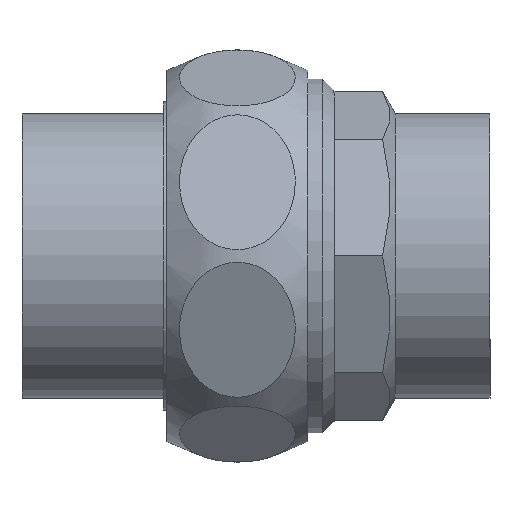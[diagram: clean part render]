
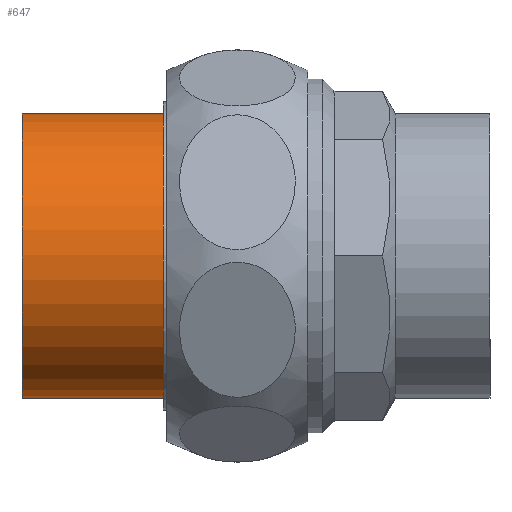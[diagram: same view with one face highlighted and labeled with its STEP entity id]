
A CAD part, front view. The second image highlights one B-rep face of the part: STEP entity #647.
In plain terms, the highlighted cylindrical face has radius 19.2 mm (diameter 38.4 mm), a full revolution.
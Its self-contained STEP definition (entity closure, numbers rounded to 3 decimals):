
#94=CYLINDRICAL_SURFACE('',#822,19.2);
#127=FACE_BOUND('',#289,.T.);
#160=CIRCLE('',#821,19.2);
#161=CIRCLE('',#823,19.2);
#212=FACE_OUTER_BOUND('',#288,.T.);
#288=EDGE_LOOP('',(#559));
#289=EDGE_LOOP('',(#560));
#365=VERTEX_POINT('',#1819);
#366=VERTEX_POINT('',#1822);
#433=EDGE_CURVE('',#365,#365,#160,.T.);
#434=EDGE_CURVE('',#366,#366,#161,.T.);
#559=ORIENTED_EDGE('',*,*,#434,.F.);
#560=ORIENTED_EDGE('',*,*,#433,.T.);
#647=ADVANCED_FACE('',(#212,#127),#94,.T.);
#821=AXIS2_PLACEMENT_3D('',#1820,#990,#991);
#822=AXIS2_PLACEMENT_3D('',#1821,#992,#993);
#823=AXIS2_PLACEMENT_3D('',#1823,#994,#995);
#990=DIRECTION('center_axis',(1.,0.,0.));
#991=DIRECTION('ref_axis',(0.,1.,0.));
#992=DIRECTION('center_axis',(1.,0.,0.));
#993=DIRECTION('ref_axis',(0.,1.,0.));
#994=DIRECTION('center_axis',(1.,0.,0.));
#995=DIRECTION('ref_axis',(0.,1.,0.));
#1819=CARTESIAN_POINT('',(8.,19.2,0.));
#1820=CARTESIAN_POINT('Origin',(8.,0.,0.));
#1821=CARTESIAN_POINT('Origin',(17.5,0.,0.));
#1822=CARTESIAN_POINT('',(27.,19.2,0.));
#1823=CARTESIAN_POINT('Origin',(27.,0.,0.));
